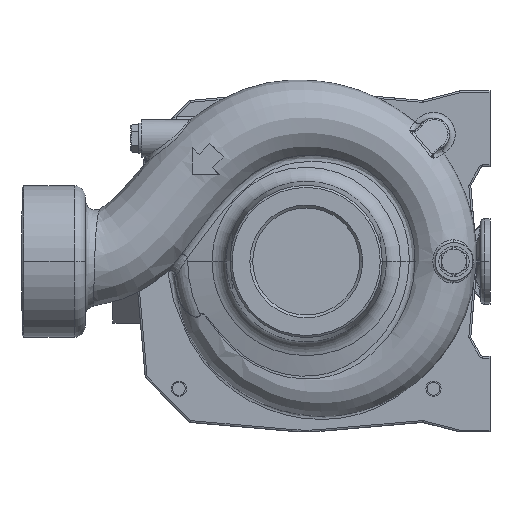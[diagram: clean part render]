
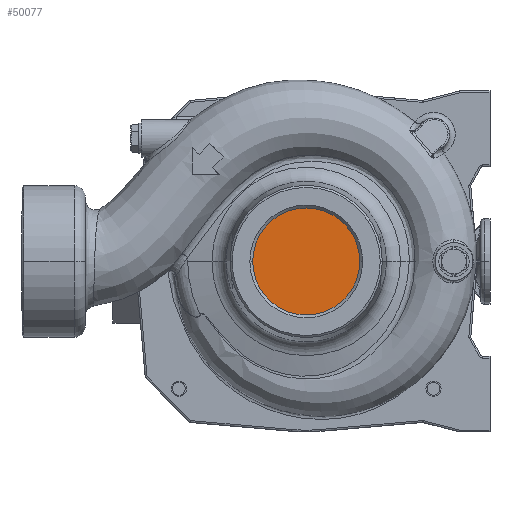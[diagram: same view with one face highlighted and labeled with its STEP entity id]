
A CAD part, left-side view. The second image highlights one B-rep face of the part: STEP entity #50077.
In plain terms, the highlighted planar face has unit normal (-1, 0, 0).
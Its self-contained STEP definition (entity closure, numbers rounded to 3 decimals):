
#33680=CARTESIAN_POINT('',(-23.,0.,0.));
#33681=DIRECTION('',(1.,0.,0.));
#33682=DIRECTION('',(0.,1.,0.));
#33683=AXIS2_PLACEMENT_3D('',#33680,#33681,#33682);
#33703=CARTESIAN_POINT('',(-23.,0.,0.));
#33704=DIRECTION('',(-1.,0.,0.));
#33705=DIRECTION('',(0.,1.,0.));
#33706=AXIS2_PLACEMENT_3D('',#33703,#33704,#33705);
#37300=CARTESIAN_POINT('',(-23.,28.25,0.));
#37301=VERTEX_POINT('',#37300);
#37302=CARTESIAN_POINT('',(-23.,-28.25,0.));
#37303=VERTEX_POINT('',#37302);
#50068=CARTESIAN_POINT('',(-23.,0.,0.));
#50069=DIRECTION('',(1.,0.,0.));
#50070=DIRECTION('',(0.,-1.,0.));
#50071=AXIS2_PLACEMENT_3D('',#50068,#50069,#50070);
#50072=PLANE('',#50071);
#50073=ORIENTED_EDGE('',*,*,#50062,.F.);
#50074=ORIENTED_EDGE('',*,*,#50048,.T.);
#50075=EDGE_LOOP('',(#50073,#50074));
#50076=FACE_OUTER_BOUND('',#50075,.F.);
#33684=CIRCLE('',#33683,28.25);
#33707=CIRCLE('',#33706,28.25);
#50048=EDGE_CURVE('',#37301,#37303,#33684,.T.);
#50062=EDGE_CURVE('',#37301,#37303,#33707,.T.);
#50077=ADVANCED_FACE('',(#50076),#50072,.F.);
